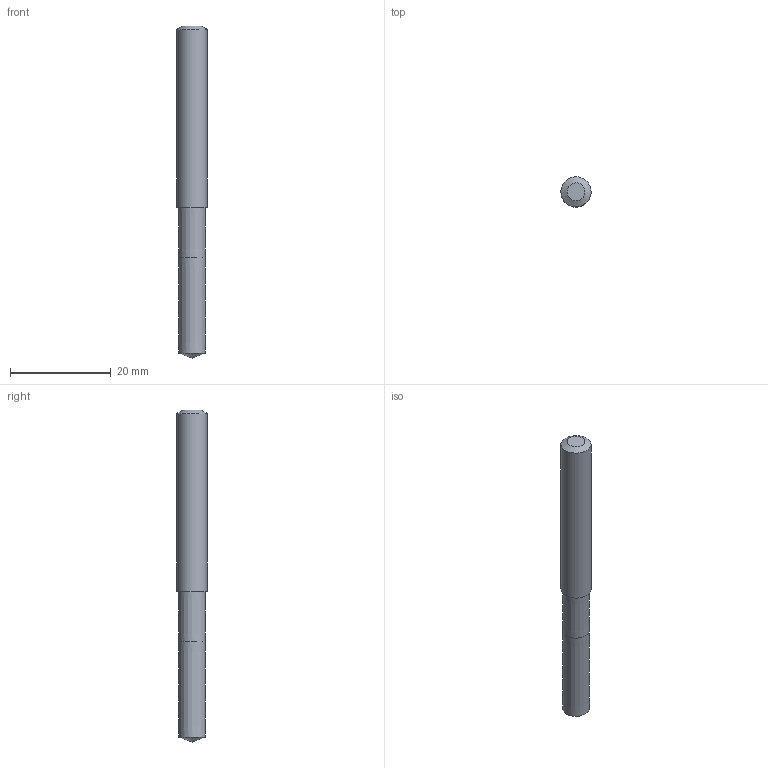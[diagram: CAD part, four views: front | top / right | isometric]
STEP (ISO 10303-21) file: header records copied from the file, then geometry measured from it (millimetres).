
FILE_DESCRIPTION(/* description */ (''),/* implementation_level */ '2;1');
FILE_NAME(/* name */ 'PLM~170628061921~TIX~0160~7287730~MOD~TM01_00~DC150-03-05.300D1-WJ30RE_ISO~FR.STP',/* time_stamp */ '2017-06-28T07:31:48+02:00',/* author */ ('VR - J.Pauli'),/* organization */ ('Walter AG'),/* preprocessor_version */ 'ST-DEVELOPER v15',/* originating_system */ 'SIEMENS PLM Software NX 8.5',/* authorisation */ '');
FILE_SCHEMA (('AUTOMOTIVE_DESIGN { 1 0 10303 214 3 1 1 1 }'));
Length unit declared in the file: millimetre
Products named in the file (1): PLM~170628061921~TIX~0160~7287730~MOD~TM01_00~DC150-03-05.300D1-WJ30R
E_ISO~FR
Bounding box: 6 x 6 x 66 mm (x, y, z)
Volume: 1658.4 mm3; surface area: 1253.6 mm2
Topology: 2 solids, 2 shells, 9 faces, 18 edges, 14 vertices
Faces by surface type: cone 5, plane 3, cylinder 1
Full cylindrical faces by diameter (mm): 6 x1
Entity records: 247 total; most frequent: DIRECTION 42, CARTESIAN_POINT 30, AXIS2_PLACEMENT_3D 20, EDGE_LOOP 14, ORIENTED_EDGE 14, FACE_BOUND 12, ADVANCED_FACE 9, VERTEX_POINT 8
